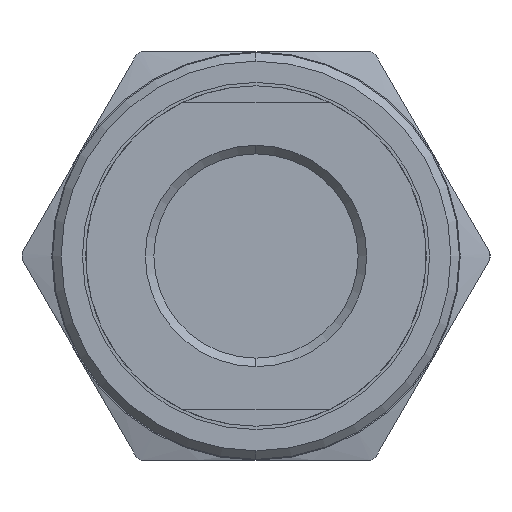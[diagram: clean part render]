
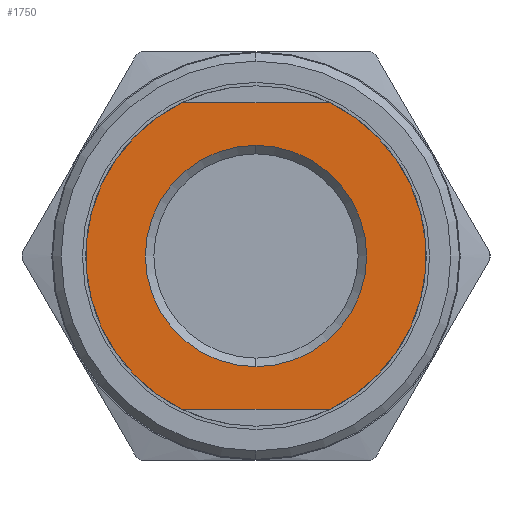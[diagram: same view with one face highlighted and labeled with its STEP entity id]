
A CAD part, left-side view. The second image highlights one B-rep face of the part: STEP entity #1750.
In plain terms, the highlighted planar face has unit normal (-1, 0, 0).
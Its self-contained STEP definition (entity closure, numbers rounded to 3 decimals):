
#44 = CARTESIAN_POINT ( 'NONE',  ( -27.75, 4.359, -9. ) ) ;
#144 = CIRCLE ( 'NONE', #9734, 6.5 ) ;
#188 = DIRECTION ( 'NONE',  ( -1., 0., 0. ) ) ;
#311 = CARTESIAN_POINT ( 'NONE',  ( -27.75, -4.359, -9. ) ) ;
#361 = CARTESIAN_POINT ( 'NONE',  ( -27.75, 0., 0. ) ) ;
#481 = LINE ( 'NONE', #902, #6561 ) ;
#528 = CARTESIAN_POINT ( 'NONE',  ( -27.75, 0., 0. ) ) ;
#649 = EDGE_CURVE ( 'NONE', #7343, #5645, #481, .T. ) ;
#902 = CARTESIAN_POINT ( 'NONE',  ( -27.75, 0., 9. ) ) ;
#1018 = ORIENTED_EDGE ( 'NONE', *, *, #5922, .T. ) ;
#1174 = CARTESIAN_POINT ( 'NONE',  ( -27.75, 0., 0. ) ) ;
#1346 = EDGE_CURVE ( 'NONE', #7149, #6651, #144, .T. ) ;
#1559 = DIRECTION ( 'NONE',  ( 0., 0., 1. ) ) ;
#1667 = CIRCLE ( 'NONE', #4652, 10. ) ;
#1750 = ADVANCED_FACE ( 'NONE', ( #4623, #7231 ), #5151, .F. ) ;
#2276 = CARTESIAN_POINT ( 'NONE',  ( -27.75, 0., -9. ) ) ;
#2664 = VERTEX_POINT ( 'NONE', #311 ) ;
#3126 = DIRECTION ( 'NONE',  ( 0., 1., 0. ) ) ;
#3543 = EDGE_CURVE ( 'NONE', #6651, #7149, #7855, .T. ) ;
#3567 = CARTESIAN_POINT ( 'NONE',  ( -27.75, 0., 0. ) ) ;
#3849 = EDGE_CURVE ( 'NONE', #2664, #7343, #1667, .T. ) ;
#4217 = CARTESIAN_POINT ( 'NONE',  ( -27.75, -4.359, 9. ) ) ;
#4402 = DIRECTION ( 'NONE',  ( 0., 0., 1. ) ) ;
#4502 = DIRECTION ( 'NONE',  ( 0., 0., -1. ) ) ;
#4623 = FACE_BOUND ( 'NONE', #8683, .T. ) ;
#4652 = AXIS2_PLACEMENT_3D ( 'NONE', #528, #8266, #1559 ) ;
#4962 = EDGE_LOOP ( 'NONE', ( #7805, #7587, #10732, #1018 ) ) ;
#5151 = PLANE ( 'NONE',  #10782 ) ;
#5571 = AXIS2_PLACEMENT_3D ( 'NONE', #6095, #6881, #6923 ) ;
#5645 = VERTEX_POINT ( 'NONE', #10435 ) ;
#5660 = CIRCLE ( 'NONE', #10841, 10. ) ;
#5922 = EDGE_CURVE ( 'NONE', #9513, #2664, #10594, .T. ) ;
#6095 = CARTESIAN_POINT ( 'NONE',  ( -27.75, 0., 0. ) ) ;
#6251 = DIRECTION ( 'NONE',  ( 0., 0., 1. ) ) ;
#6561 = VECTOR ( 'NONE', #3126, 1000. ) ;
#6651 = VERTEX_POINT ( 'NONE', #9958 ) ;
#6881 = DIRECTION ( 'NONE',  ( -1., 0., 0. ) ) ;
#6923 = DIRECTION ( 'NONE',  ( 0., 0., 1. ) ) ;
#7149 = VERTEX_POINT ( 'NONE', #10676 ) ;
#7174 = VECTOR ( 'NONE', #8977, 1000. ) ;
#7190 = ORIENTED_EDGE ( 'NONE', *, *, #1346, .F. ) ;
#7231 = FACE_OUTER_BOUND ( 'NONE', #4962, .T. ) ;
#7256 = ORIENTED_EDGE ( 'NONE', *, *, #3543, .F. ) ;
#7343 = VERTEX_POINT ( 'NONE', #4217 ) ;
#7587 = ORIENTED_EDGE ( 'NONE', *, *, #649, .T. ) ;
#7805 = ORIENTED_EDGE ( 'NONE', *, *, #3849, .T. ) ;
#7855 = CIRCLE ( 'NONE', #5571, 6.5 ) ;
#7971 = DIRECTION ( 'NONE',  ( -1., 0., 0. ) ) ;
#8266 = DIRECTION ( 'NONE',  ( -1., 0., 0. ) ) ;
#8683 = EDGE_LOOP ( 'NONE', ( #7256, #7190 ) ) ;
#8720 = DIRECTION ( 'NONE',  ( 1., 0., 0. ) ) ;
#8977 = DIRECTION ( 'NONE',  ( 0., -1., 0. ) ) ;
#9513 = VERTEX_POINT ( 'NONE', #44 ) ;
#9734 = AXIS2_PLACEMENT_3D ( 'NONE', #3567, #188, #4402 ) ;
#9958 = CARTESIAN_POINT ( 'NONE',  ( -27.75, 0., 6.5 ) ) ;
#10435 = CARTESIAN_POINT ( 'NONE',  ( -27.75, 4.359, 9. ) ) ;
#10594 = LINE ( 'NONE', #2276, #7174 ) ;
#10610 = EDGE_CURVE ( 'NONE', #5645, #9513, #5660, .T. ) ;
#10676 = CARTESIAN_POINT ( 'NONE',  ( -27.75, 0., -6.5 ) ) ;
#10732 = ORIENTED_EDGE ( 'NONE', *, *, #10610, .T. ) ;
#10782 = AXIS2_PLACEMENT_3D ( 'NONE', #1174, #8720, #4502 ) ;
#10841 = AXIS2_PLACEMENT_3D ( 'NONE', #361, #7971, #6251 ) ;
